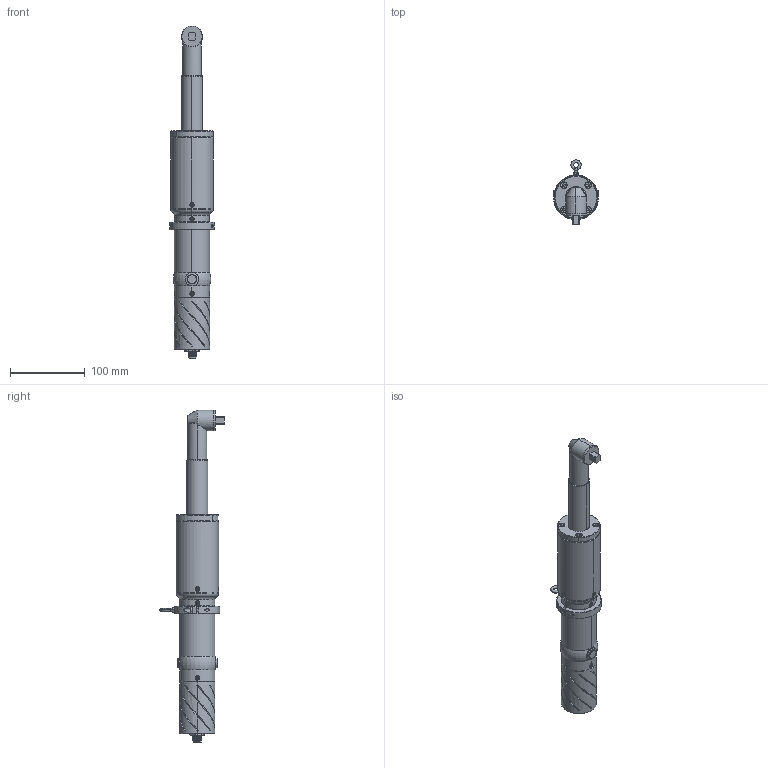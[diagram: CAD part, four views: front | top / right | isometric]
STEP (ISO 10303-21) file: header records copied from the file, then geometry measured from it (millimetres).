
FILE_DESCRIPTION (( 'STEP AP214' ), '1' );
FILE_NAME ('Pluto 30ANG.STEP', '2013-06-04T07:11:00', ( '' ), ( '' ), 'SwSTEP 2.0', 'SolidWorks 2013', '' );
FILE_SCHEMA (( 'AUTOMOTIVE_DESIGN' ));
Length unit declared in the file: millimetre
Products named in the file (1): Pluto 30ANG
Bounding box: 59.92 x 86.85 x 444.6 mm (x, y, z)
Volume: 284307.7 mm3; surface area: 147700.9 mm2
Topology: 33 solids, 33 shells, 1127 faces, 2757 edges, 1690 vertices
Faces by surface type: cylinder 529, plane 295, cone 140, bspline 99, torus 64
Entity records: 62204 total; most frequent: CARTESIAN_POINT 23498, DIRECTION 5516, ORIENTED_EDGE 5406, EDGE_CURVE 2703, AXIS2_PLACEMENT_3D 2256, VERTEX_POINT 1690, EDGE_LOOP 1269, CIRCLE 1227
